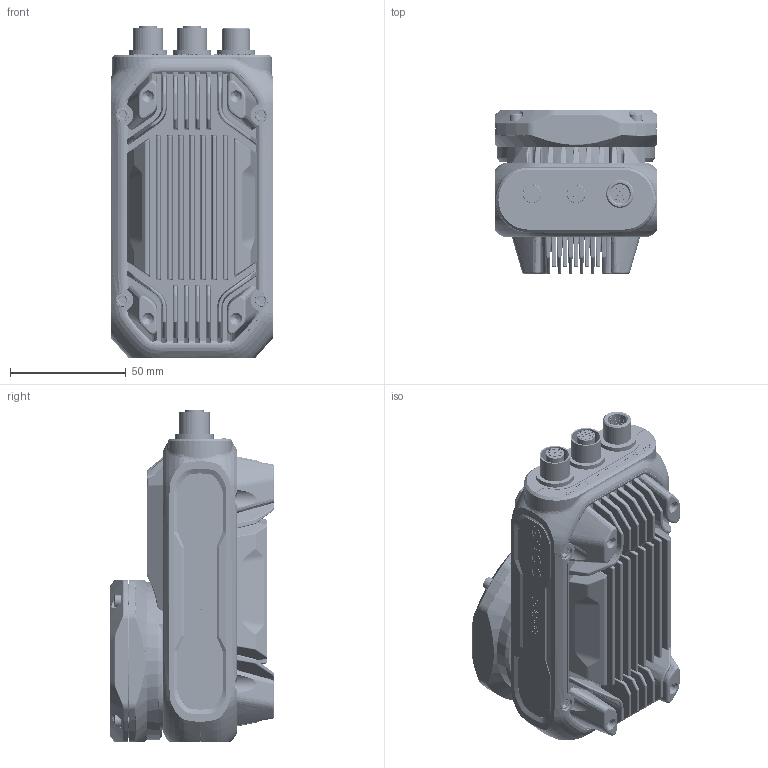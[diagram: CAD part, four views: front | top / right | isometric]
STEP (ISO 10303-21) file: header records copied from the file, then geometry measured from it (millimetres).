
FILE_DESCRIPTION((''),'2;1');
FILE_NAME('R-5000-A01-02_ASM','2022-10-17T17:04:07',('SZ3209'),(''),'CREO PARAMETRIC BY PTC INC, 2020354','CREO PARAMETRIC BY PTC INC, 2020354','');
FILE_SCHEMA(('CONFIG_CONTROL_DESIGN'));
Products named in the file (70): R-7000-M02-A01; R-7000-M03-A01; R-7000-M04-01-A01; R-7000-M05-A01; R-7000-M20; R-7000-M19; R-7000-M24; R-7000-M25; DAOGUANG_ASM; R-7000-M10-01-A01; R-7000-M23; R-7000-M12; R-7000-M26-A01; R-7000-M16-A01; R-7000-M13-A01; R-7000-M14-A01; R-7000-M22-A01; R-7000-M15; M2-5X5-CHENTOU; M3X8; M12-B-P12-M12X1; M12-O; M12X1-2-4; M12-B-P12-M12X1_ASM; M12-B-S17-M12X1; M12-B-S17-M12X1_ASM; M12-B-S8-M12X1; M12-B-S8-M12X1_ASM; R-7000-SY3; R-7000-SY1; R-5000-SY2; R-5000-M01-A01; R-5000-M03-A01; R-7000-M08-A03; R-7000-M07-A02; R-7000-M09-A02; JINGTOUZHAO-ZUJIAN_ASM; R-5000-M02-A01; R-7000-M10-7-A01; LED_PCBA-001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
Assembly tree (138 placements, depth 5):
  R-5000-A01-02_ASM
    R-7000-M02-A01
    R-7000-M03-A01
    R-7000-M04-01-A01
    DAOGUANG_ASM
      R-7000-M05-A01
      R-7000-M20
      R-7000-M19
      R-7000-M24  x4
      R-7000-M25
    R-7000-M10-01-A01  x2
    R-7000-M23
    R-7000-M12
    R-7000-M26-A01
    R-7000-M16-A01
    R-7000-M13-A01  x2
    R-7000-M14-A01
    R-7000-M22-A01
    R-7000-M15  x8
    M2-5X5-CHENTOU  x11
    M3X8  x4
    M12-B-P12-M12X1_ASM
      M12-B-P12-M12X1
      M12-O
      M12X1-2-4
    M12-B-S17-M12X1_ASM
      M12-B-S17-M12X1
      M12-O
      M12X1-2-4
    M12-B-S8-M12X1_ASM
      M12-B-S8-M12X1
      M12-O
      M12X1-2-4
    R-7000-SY3
    R-7000-SY1
    R-5000-SY2  x2
    R-5000-M01-A01
    ALL-JINGTOU-A-2-22_ASM
      JINGTOUZHAO-ZUJIAN_ASM
        R-5000-M03-A01
        R-7000-M08-A03
        R-7000-M07-A02
        R-7000-M09-A02
      R-5000-M02-A01
      R-7000-M10-7-A01  x3
      LED-002_ASM
        LED_PCBA-001
        R-5000-8
        H3535AW37E0C02  x8
        LED-LV1  x2
        LED-002DXF
        CON6-49TM-WAFER_SM
        CON4-49TM-WAFER_SM
        FPC4-40F-SMT
        M2X5-PANTOU  x3
        EF-LED-058ECS-B00_ASM
          EF-LED-058ECS-B00
          SD138X138  x8
          MARKC  x6
          HOLE87-157  x3
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Bounding box: 70.01 x 71 x 143.4 mm (x, y, z)
Volume: 212444.2 mm3; surface area: 215113.5 mm2
Topology: 191 solids, 302 shells, 7415 faces, 19280 edges, 12501 vertices
Faces by surface type: plane 3707, cylinder 2148, extrusion 576, bspline 437, cone 314, torus 159, sphere 74
Entity records: 218189 total; most frequent: CARTESIAN_POINT 77294, ORIENTED_EDGE 29490, DIRECTION 27424, EDGE_CURVE 15009, VERTEX_POINT 9805, AXIS2_PLACEMENT_3D 9201, VECTOR 9022, LINE 8556
